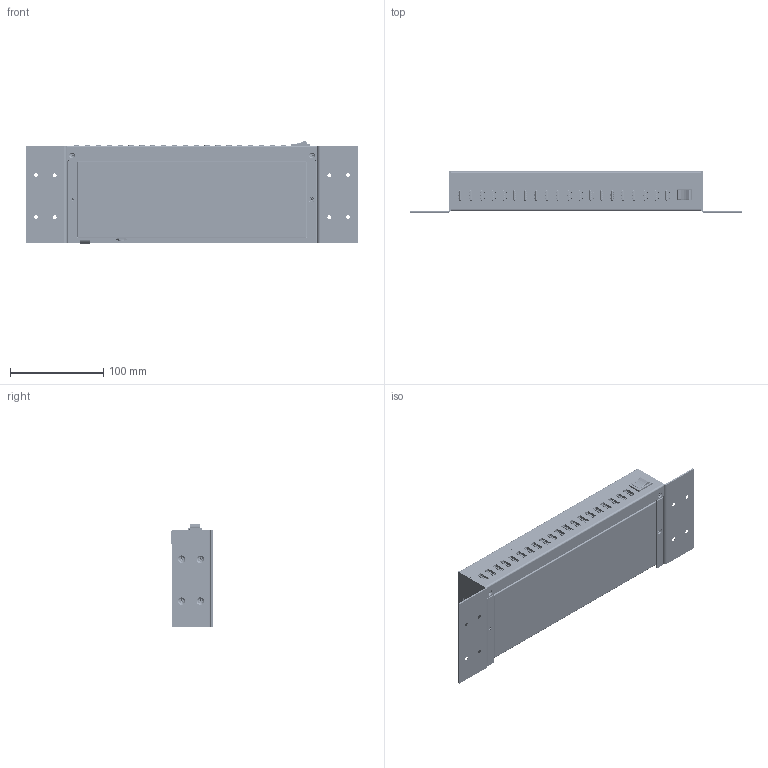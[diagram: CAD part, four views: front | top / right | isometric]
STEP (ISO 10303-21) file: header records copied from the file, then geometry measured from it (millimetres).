
FILE_DESCRIPTION(/* description */ (''),/* implementation_level */ '2;1');
FILE_NAME(/* name */ 'C:/Users/Leo/Desktop/USBG-20XU1/USBG-20XU1 Model3D LPV1.step',/* time_stamp */ '2021-05-03T10:31:09-04:00',/* author */ (''),/* organization */ (''),/* preprocessor_version */ 'ST-DEVELOPER v18.1',/* originating_system */ 'Autodesk Translation Framework v10.6.0.1341',/* authorisation */ '');
FILE_SCHEMA (('AUTOMOTIVE_DESIGN { 1 0 10303 214 3 1 1 }'));
Products named in the file (74): usbg-20xu1; Component1; U2CHGRHUB20 LP_Base v1; Front; Upper case; Cristal led; Cristal led(Mirror); USB Type B Vertical Block v4; Download_STP_692121030100_(rev1); Switch Rocket rounded v1; USB Type B Vertical Block v4_1; Download_STP_692121030100_(rev1)_1; USB Type B Vertical Block v4_2; Download_STP_692121030100_(rev1)_2; USB Type B Vertical Block v4_3; Download_STP_692121030100_(rev1)_3; USB Type B Vertical Block v4_4; Download_STP_692121030100_(rev1)_4; USB Type B Vertical Block v4_5; Download_STP_692121030100_(rev1)_5; USB Type B Vertical Block v4_6; Download_STP_692121030100_(rev1)_6; USB Type B Vertical Block v4_7; Download_STP_692121030100_(rev1)_7; USB Type B Vertical Block v4_8; Download_STP_692121030100_(rev1)_8; USB Type B Vertical Block v4_9; Download_STP_692121030100_(rev1)_9; USB Type B Vertical Block v4_10; Download_STP_692121030100_(rev1)_10; USB Type B Vertical Block v4_11; Download_STP_692121030100_(rev1)_11; USB Type B Vertical Block v4_12; Download_STP_692121030100_(rev1)_12; USB Type B Vertical Block v4_13; Download_STP_692121030100_(rev1)_13; USB Type B Vertical Block v4_14; Download_STP_692121030100_(rev1)_14; USB Type B Vertical Block v4_15; Download_STP_692121030100_(rev1)_15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
Assembly tree (336 placements, depth 4):
  usbg-20xu1
    Component1
    U2CHGRHUB20 LP_Base v1
    Front
    Upper case
    Cristal led
    Cristal led(Mirror)
    USB Type B Vertical Block v4
      Download_STP_692121030100_(rev1)
        housing1
        pin1  x5
        housing2
        pin2  x2
        pin  x2
        shielding
    Switch Rocket rounded v1
      Body
      Rocker
      Pins
      Pivot
    USB Type B Vertical Block v4_1
      Download_STP_692121030100_(rev1)_1
        housing1
        pin1  x5
        housing2
        pin2  x2
        pin  x2
        shielding
    USB Type B Vertical Block v4_2
      Download_STP_692121030100_(rev1)_2
        housing1
        pin1  x5
        housing2
        pin2  x2
        pin  x2
        shielding
    USB Type B Vertical Block v4_3
      Download_STP_692121030100_(rev1)_3
        housing1
        pin1  x5
        housing2
        pin2  x2
        pin  x2
        shielding
    USB Type B Vertical Block v4_4
      Download_STP_692121030100_(rev1)_4
        housing1
        pin1  x5
        housing2
        pin2  x2
        pin  x2
        shielding
    USB Type B Vertical Block v4_5
      Download_STP_692121030100_(rev1)_5
        housing1
        pin1  x5
        housing2
        pin2  x2
        pin  x2
        shielding
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Bounding box: 356.3 x 44.04 x 110.59 mm (x, y, z)
Volume: 241349.6 mm3; surface area: 389594.7 mm2
Topology: 38 solids, 39 shells, 16198 faces, 47538 edges, 31004 vertices
Faces by surface type: plane 11368, cylinder 3450, bspline 1007, cone 262, sphere 100, torus 11
Full cylindrical faces by diameter (mm): 1 x2, 1.5 x2, 1.921 x20, 2 x20, 2.4 x1, 2.529 x16, 2.85 x8, 3 x12, 3.2 x8, 4 x8, 5 x8, 5.35 x4, 7 x1, 8 x2, 8.02 x1, 8.2 x2, 10 x1
Entity records: 526853 total; most frequent: CARTESIAN_POINT 103300, ORIENTED_EDGE 92270, DIRECTION 81621, EDGE_CURVE 46135, LINE 36997, VECTOR 36997, VERTEX_POINT 30114, AXIS2_PLACEMENT_3D 22312
